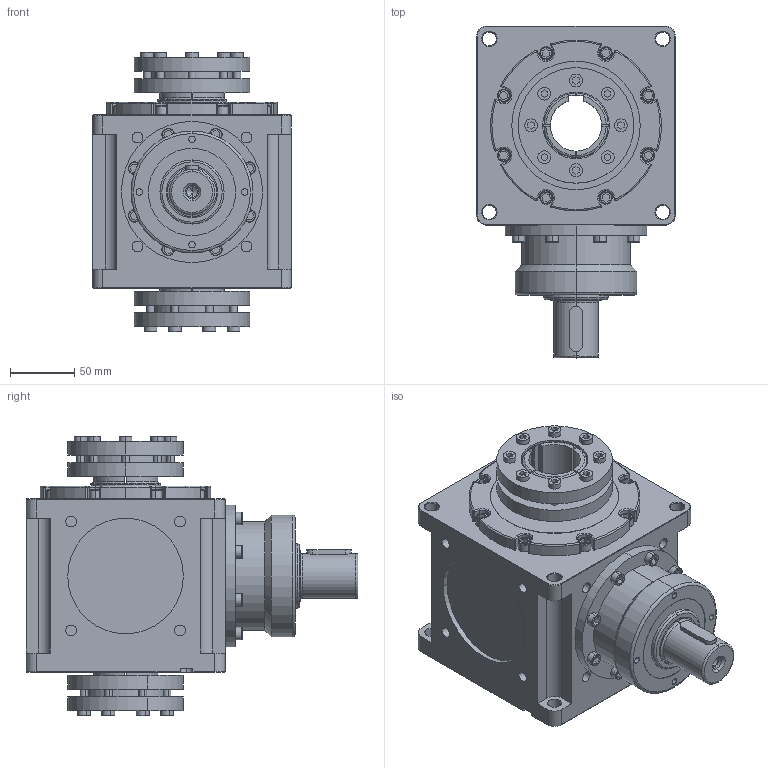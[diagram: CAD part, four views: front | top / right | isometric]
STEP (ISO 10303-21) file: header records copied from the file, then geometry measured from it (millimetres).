
FILE_DESCRIPTION (( 'STEP AP214' ), '1' );
FILE_NAME ('CCT155A-002-2HP-K.STEP', '2025-05-24T05:31:27', ( '微软用户' ), ( '微软中国' ), 'SwSTEP 2.0', 'SolidWorks 2024', '' );
FILE_SCHEMA (( 'AUTOMOTIVE_DESIGN' ));
Length unit declared in the file: millimetre
Products named in the file (4): CCT155A-002-2HP-K; CCW155A-002-2HP-K箱体; CCW155A输入组件; 外紧固型胀紧套[50-90]_EDO-50-90
Assembly tree (4 placements, depth 2):
  CCT155A-002-2HP-K
    CCW155A-002-2HP-K箱体
    外紧固型胀紧套[50-90]_EDO-50-90  x2
    CCW155A输入组件
Bounding box: 155 x 258.5 x 218 mm (x, y, z)
Volume: 3514410.9 mm3; surface area: 299575.7 mm2
Topology: 4 solids, 4 shells, 867 faces, 2073 edges, 1319 vertices
Faces by surface type: plane 414, cylinder 328, torus 79, cone 30, sphere 16
Entity records: 21691 total; most frequent: CARTESIAN_POINT 4056, DIRECTION 3890, ORIENTED_EDGE 3462, EDGE_CURVE 1731, AXIS2_PLACEMENT_3D 1467, VERTEX_POINT 1103, VECTOR 956, LINE 956
